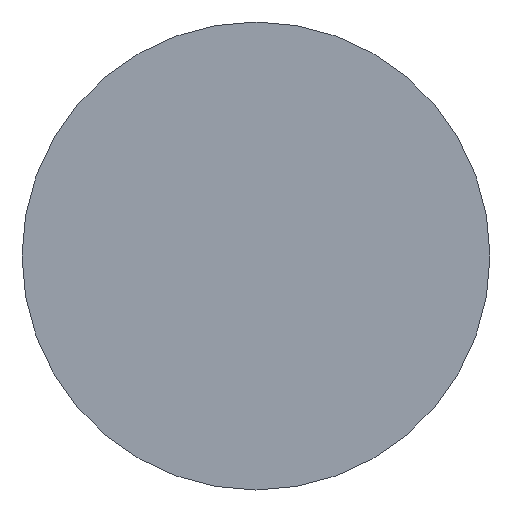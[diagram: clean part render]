
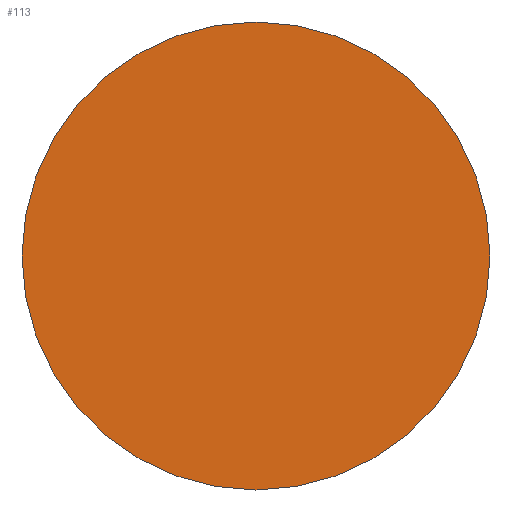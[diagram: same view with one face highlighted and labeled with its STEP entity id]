
A CAD part, left-side view. The second image highlights one B-rep face of the part: STEP entity #113.
In plain terms, the highlighted planar face has unit normal (-1, 0, 0).
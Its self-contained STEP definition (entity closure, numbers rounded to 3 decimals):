
#13 = EDGE_LOOP ( 'NONE', ( #42, #40 ) ) ;
#28 = CIRCLE ( 'NONE', #120, 5.5 ) ;
#29 = FACE_OUTER_BOUND ( 'NONE', #13, .T. ) ;
#40 = ORIENTED_EDGE ( 'NONE', *, *, #119, .T. ) ;
#42 = ORIENTED_EDGE ( 'NONE', *, *, #130, .T. ) ;
#43 = CIRCLE ( 'NONE', #127, 5.5 ) ;
#69 = DIRECTION ( 'NONE',  ( 0., 0., 1. ) ) ;
#70 = DIRECTION ( 'NONE',  ( -1., 0., 0. ) ) ;
#74 = CARTESIAN_POINT ( 'NONE',  ( -132.5, 0., 0. ) ) ;
#79 = CARTESIAN_POINT ( 'NONE',  ( -132.5, 0., -5.5 ) ) ;
#85 = DIRECTION ( 'NONE',  ( 0., 0., 1. ) ) ;
#86 = DIRECTION ( 'NONE',  ( -1., 0., 0. ) ) ;
#87 = CARTESIAN_POINT ( 'NONE',  ( -132.5, 0., 0. ) ) ;
#93 = VERTEX_POINT ( 'NONE', #79 ) ;
#97 = CARTESIAN_POINT ( 'NONE',  ( -132.5, 0., 0. ) ) ;
#103 = DIRECTION ( 'NONE',  ( 0., 0., 1. ) ) ;
#104 = DIRECTION ( 'NONE',  ( -1., 0., 0. ) ) ;
#105 = CARTESIAN_POINT ( 'NONE',  ( -132.5, 0., 5.5 ) ) ;
#108 = VERTEX_POINT ( 'NONE', #105 ) ;
#111 = PLANE ( 'NONE',  #137 ) ;
#113 = ADVANCED_FACE ( 'NONE', ( #29 ), #111, .T. ) ;
#119 = EDGE_CURVE ( 'NONE', #93, #108, #43, .T. ) ;
#120 = AXIS2_PLACEMENT_3D ( 'NONE', #74, #70, #69 ) ;
#127 = AXIS2_PLACEMENT_3D ( 'NONE', #87, #86, #85 ) ;
#130 = EDGE_CURVE ( 'NONE', #108, #93, #28, .T. ) ;
#137 = AXIS2_PLACEMENT_3D ( 'NONE', #97, #104, #103 ) ;
